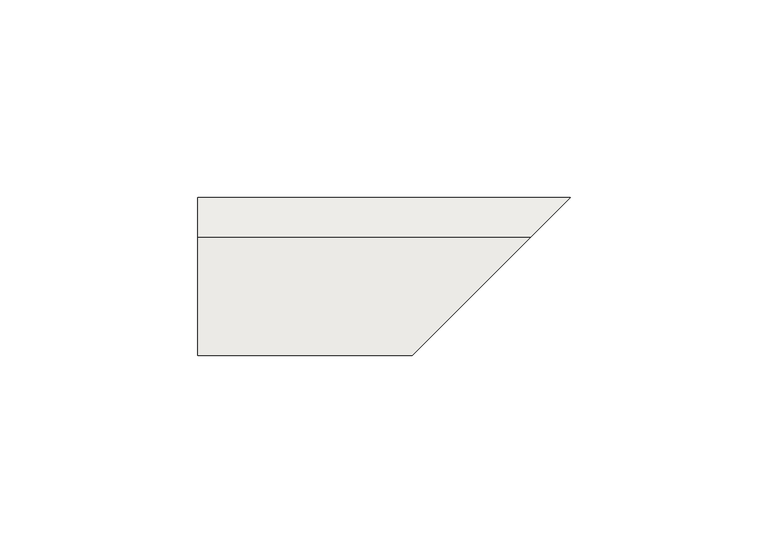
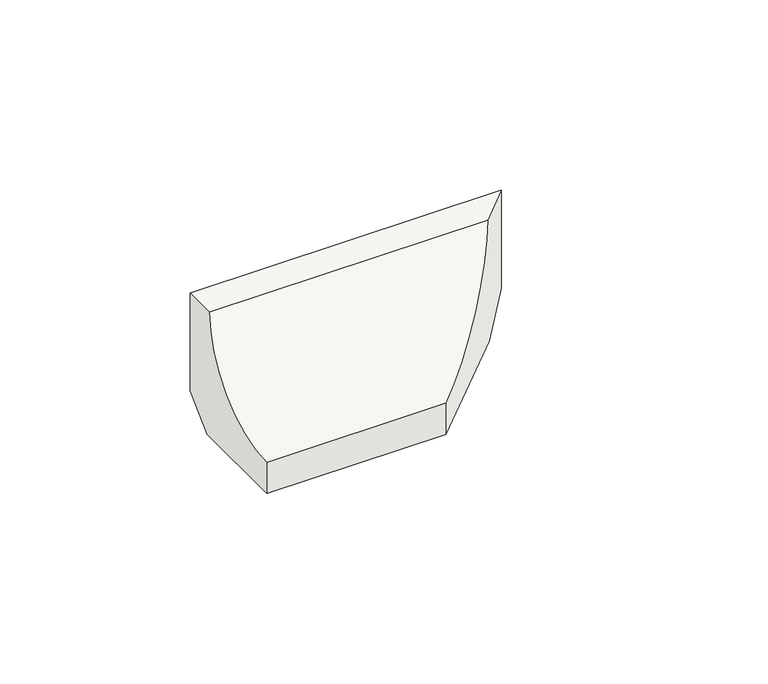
"""IFC4 building model written with IfcOpenShell, lengths in millimetres: slab geometry, ROSA GRES_112 (corte) : Pieza 112_Aqua_Marino_Liso."""

from ifc_helpers import new_model, si_unit, frame, origin, place, context, project, spatial, polyline, circle_curve, ellipse_curve, source, transform, mapped, element, save
from ifc_brep_helpers import plane_surface, revolved_surface, advanced_brep


def slab_1794afb2(model_context):
    return source(origin(), model_context, "Body", "AdvancedBrep", [
        advanced_brep(
        [(0.0, 0.0, 8.7114978), (0.0, -8.7114978, 0.0), (0.0, -40.0, 0.0), (0.0, -40.0, 9.9734114), (0.0, -9.9734114, 40.0), (0.0, 0.0, 40.0), (94.3, 0.0, 40.0), (94.3, 0.0, 8.7114978), (84.3265886, -9.9734114, 40.0), (54.3, -40.0, 9.9734114), (54.3, -40.0, 0.0), (85.5885022, -8.7114978, 0.0)],
        [
            (0, 1),
            (1, 2),
            (2, 3),
            (3, 4, circle_curve(frame((0.0, -39.9955547, 39.9955547), z_axis=(1.0, 0.0, 0.0), x_axis=(0.0, -1.0, 0.0)), 30.0221435)),
            (4, 5),
            (5, 0),
            (5, 6),
            (6, 7),
            (7, 0),
            (4, 8),
            (8, 6),
            (3, 9),
            (9, 8, ellipse_curve(frame((54.3044453, -39.9955547, 39.9955547), z_axis=(0.7071067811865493, -0.7071067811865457, 0.0), x_axis=(0.7071067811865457, 0.7071067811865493, 0.0)), 42.4577226, 30.0221435)),
            (2, 10),
            (10, 9),
            (1, 11),
            (11, 10),
            (7, 11),
        ],
        [
            plane_surface(frame((0.0, 0.0, 0.0), z_axis=(-1.0, 0.0, 0.0), x_axis=(0.0, 0.0, 1.0))),
            plane_surface(frame((0.0, 0.0, 8.7114978), z_axis=(0.0, 1.0, 0.0), x_axis=(1.0, 0.0, 0.0))),
            plane_surface(frame((0.0, 0.0, 40.0), z_axis=(0.0, 0.0, 1.0), x_axis=(1.0, 0.0, 0.0))),
            revolved_surface(polyline([(84.32658886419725, -70.0176982, 39.9955547), (0.0, -70.0176982, 39.9955547)]), (0.0, -39.9955547, 39.9955547), (1.0, 0.0, 0.0)),
            plane_surface(frame((0.0, -40.0, 9.9734114), z_axis=(0.0, -1.0, 0.0), x_axis=(1.0, 0.0, 0.0))),
            plane_surface(frame((0.0, -40.0, 0.0), z_axis=(0.0, 0.0, -1.0), x_axis=(1.0, 0.0, 0.0))),
            plane_surface(frame((0.0, -8.7114978, 0.0), z_axis=(0.0, 0.7071067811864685, -0.7071067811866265), x_axis=(1.0, 0.0, 0.0))),
            plane_surface(frame((53.8, -40.5, 104.9871832), z_axis=(0.7071067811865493, -0.7071067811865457, 0.0), x_axis=(0.0, 0.0, -1.0))),
        ],
        [
            (0, [[1, 2, 3, 4, 5, 6]]),
            (1, [[7, 8, 9, -6]]),
            (2, [[10, 11, -7, -5]]),
            (3, [[12, 13, -10, -4]]),
            (4, [[14, 15, -12, -3]]),
            (5, [[16, 17, -14, -2]]),
            (6, [[-9, 18, -16, -1]]),
            (7, [[-11, -13, -15, -17, -18, -8]]),
        ],
    ),
    ])


if __name__ == "__main__":
    model = new_model("IFC4")
    model_context = context("Model", 3, world=origin())
    ifc_project = project(units=[si_unit("LENGTHUNIT", "METRE", prefix="MILLI")], contexts=[model_context])
    site = spatial("IfcSite", under=ifc_project)
    building = spatial("IfcBuilding", under=site)
    placement = place(None, origin())
    slab_shape = slab_1794afb2(model_context)
    element("IfcSlab", 1, ObjectType="ROSA GRES_112 (corte) : Pieza 112_Aqua_Marino_Liso", at=placement, inside=building, context=model_context, shape_type="MappedRepresentation", body=[
        mapped(slab_shape, transform((0.0, 0.0, 0.0), x_axis=(1.0, 0.0, 0.0), y_axis=(0.0, 1.0, 0.0), z_axis=(0.0, 0.0, 1.0))),
    ])
    save(model, "model.ifc")
